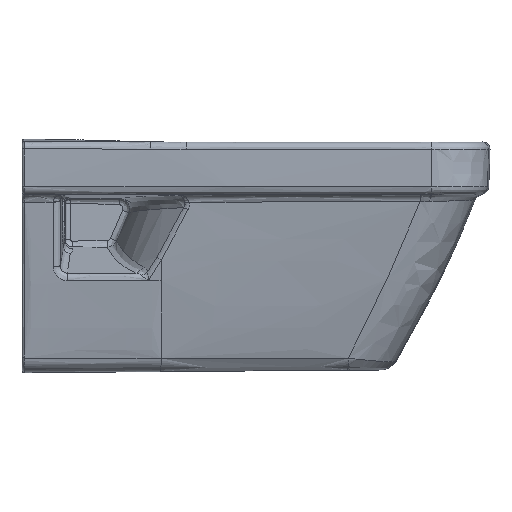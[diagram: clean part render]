
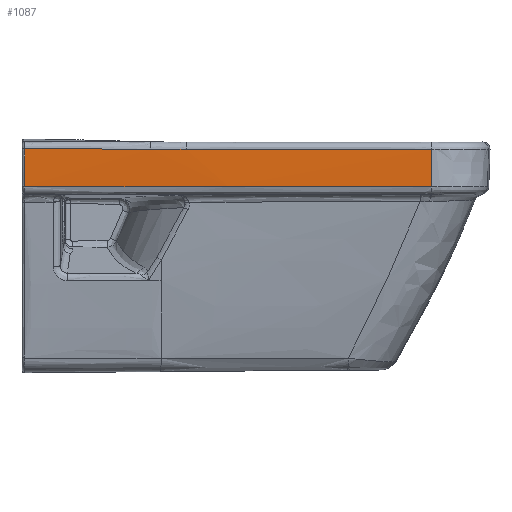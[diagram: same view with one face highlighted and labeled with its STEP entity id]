
A CAD part, front view. The second image highlights one B-rep face of the part: STEP entity #1087.
In plain terms, the highlighted free-form (B-spline) face has degree [3, 3] with [8, 7] control points.
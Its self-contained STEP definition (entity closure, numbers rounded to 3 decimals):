
#738=B_SPLINE_SURFACE_WITH_KNOTS('',3,3,((#49811,#49812,#49813,#49814,#49815,
#49816,#49817),(#49818,#49819,#49820,#49821,#49822,#49823,#49824),(#49825,
#49826,#49827,#49828,#49829,#49830,#49831),(#49832,#49833,#49834,#49835,
#49836,#49837,#49838),(#49839,#49840,#49841,#49842,#49843,#49844,#49845),
(#49846,#49847,#49848,#49849,#49850,#49851,#49852),(#49853,#49854,#49855,
#49856,#49857,#49858,#49859),(#49860,#49861,#49862,#49863,#49864,#49865,
#49866)),.UNSPECIFIED.,.F.,.F.,.F.,(4,2,2,4),(4,1,1,1,4),(0.,0.13,
0.843,1.),(0.,0.19,0.199,0.2,1.),
 .UNSPECIFIED.);
#1087=ADVANCED_FACE('',(#1491),#738,.T.);
#1491=FACE_OUTER_BOUND('',#1893,.T.);
#1893=EDGE_LOOP('',(#3611,#3612,#3613,#3614,#3615,#3616,#3617));
#3611=ORIENTED_EDGE('',*,*,#5258,.T.);
#3612=ORIENTED_EDGE('',*,*,#5272,.T.);
#3613=ORIENTED_EDGE('',*,*,#5273,.T.);
#3614=ORIENTED_EDGE('',*,*,#5222,.F.);
#3615=ORIENTED_EDGE('',*,*,#4941,.T.);
#3616=ORIENTED_EDGE('',*,*,#4938,.T.);
#3617=ORIENTED_EDGE('',*,*,#5259,.T.);
#4207=VERTEX_POINT('',#33628);
#4210=VERTEX_POINT('',#33666);
#4211=VERTEX_POINT('',#33688);
#4373=VERTEX_POINT('',#44977);
#4387=VERTEX_POINT('',#49016);
#4388=VERTEX_POINT('',#49021);
#4396=VERTEX_POINT('',#49806);
#4938=EDGE_CURVE('',#4207,#4210,#5642,.T.);
#4941=EDGE_CURVE('',#4211,#4207,#5644,.T.);
#5222=EDGE_CURVE('',#4211,#4373,#5846,.T.);
#5258=EDGE_CURVE('',#4388,#4387,#5878,.T.);
#5259=EDGE_CURVE('',#4210,#4388,#5879,.T.);
#5272=EDGE_CURVE('',#4387,#4396,#5892,.T.);
#5273=EDGE_CURVE('',#4396,#4373,#5893,.T.);
#5642=B_SPLINE_CURVE_WITH_KNOTS('',3,(#33667,#33668,#33669,#33670,#33671,
#33672,#33673,#33674),.UNSPECIFIED.,.F.,.F.,(4,2,2,4),(0.,0.311,
0.622,1.),.UNSPECIFIED.);
#5644=B_SPLINE_CURVE_WITH_KNOTS('',3,(#33741,#33742,#33743,#33744,#33745,
#33746,#33747,#33748),.UNSPECIFIED.,.F.,.F.,(4,2,2,4),(0.,0.25,0.5,1.),
 .UNSPECIFIED.);
#5846=B_SPLINE_CURVE_WITH_KNOTS('',3,(#44973,#44974,#44975,#44976),
 .UNSPECIFIED.,.F.,.F.,(4,4),(0.,1.),.UNSPECIFIED.);
#5878=B_SPLINE_CURVE_WITH_KNOTS('',3,(#49017,#49018,#49019,#49020),
 .UNSPECIFIED.,.F.,.F.,(4,4),(0.,1.),.UNSPECIFIED.);
#5879=B_SPLINE_CURVE_WITH_KNOTS('',3,(#49022,#49023,#49024,#49025,#49026,
#49027,#49028,#49029,#49030,#49031,#49032),.UNSPECIFIED.,.F.,.F.,(4,2,2,
3,4),(0.,0.4,0.799,0.934,1.),
 .UNSPECIFIED.);
#5892=B_SPLINE_CURVE_WITH_KNOTS('',3,(#49802,#49803,#49804,#49805),
 .UNSPECIFIED.,.F.,.F.,(4,4),(0.,1.),.UNSPECIFIED.);
#5893=B_SPLINE_CURVE_WITH_KNOTS('',3,(#49807,#49808,#49809,#49810),
 .UNSPECIFIED.,.F.,.F.,(4,4),(0.,1.),.UNSPECIFIED.);
#33628=CARTESIAN_POINT('',(185.79,-184.959,-8.19));
#33666=CARTESIAN_POINT('',(145.676,-184.875,-8.072));
#33667=CARTESIAN_POINT('',(185.79,-184.959,-8.19));
#33668=CARTESIAN_POINT('',(181.631,-184.956,-8.18));
#33669=CARTESIAN_POINT('',(177.473,-184.951,-8.168));
#33670=CARTESIAN_POINT('',(169.156,-184.938,-8.144));
#33671=CARTESIAN_POINT('',(164.997,-184.93,-8.132));
#33672=CARTESIAN_POINT('',(155.784,-184.907,-8.104));
#33673=CARTESIAN_POINT('',(150.73,-184.893,-8.09));
#33674=CARTESIAN_POINT('',(145.676,-184.875,-8.072));
#33688=CARTESIAN_POINT('',(463.726,-182.563,-8.195));
#33741=CARTESIAN_POINT('',(463.726,-182.563,-8.195));
#33742=CARTESIAN_POINT('',(440.567,-182.98,-8.251));
#33743=CARTESIAN_POINT('',(417.407,-183.343,-8.245));
#33744=CARTESIAN_POINT('',(371.086,-183.959,-8.285));
#33745=CARTESIAN_POINT('',(347.925,-184.213,-8.302));
#33746=CARTESIAN_POINT('',(278.44,-184.811,-8.325));
#33747=CARTESIAN_POINT('',(232.115,-184.993,-8.301));
#33748=CARTESIAN_POINT('',(185.79,-184.959,-8.19));
#44973=CARTESIAN_POINT('',(463.727,-182.6,0.));
#44974=CARTESIAN_POINT('',(463.727,-182.6,-20.015));
#44975=CARTESIAN_POINT('',(463.715,-181.933,-40.03));
#44976=CARTESIAN_POINT('',(463.691,-180.6,-60.));
#44977=CARTESIAN_POINT('',(463.701,-181.18,-50.561));
#49016=CARTESIAN_POINT('',(2.961,-183.705,-7.817));
#49017=CARTESIAN_POINT('',(3.948,-183.718,-7.817));
#49018=CARTESIAN_POINT('',(3.619,-183.713,-7.817));
#49019=CARTESIAN_POINT('',(3.29,-183.709,-7.817));
#49020=CARTESIAN_POINT('',(2.961,-183.705,-7.817));
#49021=CARTESIAN_POINT('',(3.948,-183.718,-7.817));
#49022=CARTESIAN_POINT('',(145.676,-184.875,-8.072));
#49023=CARTESIAN_POINT('',(125.46,-184.806,-8.));
#49024=CARTESIAN_POINT('',(105.244,-184.696,-7.945));
#49025=CARTESIAN_POINT('',(64.812,-184.393,-7.862));
#49026=CARTESIAN_POINT('',(44.596,-184.201,-7.836));
#49027=CARTESIAN_POINT('',(17.57,-183.889,-7.82));
#49028=CARTESIAN_POINT('',(10.759,-183.806,-7.818));
#49029=CARTESIAN_POINT('',(3.948,-183.718,-7.817));
#49030=CARTESIAN_POINT('',(0.615,-183.675,-7.816));
#49031=CARTESIAN_POINT('',(-2.718,-183.63,-7.816));
#49032=CARTESIAN_POINT('',(-6.051,-183.585,-7.816));
#49802=CARTESIAN_POINT('',(2.961,-183.705,-7.817));
#49803=CARTESIAN_POINT('',(2.961,-183.581,-22.074));
#49804=CARTESIAN_POINT('',(2.961,-183.119,-36.326));
#49805=CARTESIAN_POINT('',(2.961,-182.319,-50.562));
#49806=CARTESIAN_POINT('',(2.961,-182.319,-50.561));
#49807=CARTESIAN_POINT('',(2.961,-182.319,-50.562));
#49808=CARTESIAN_POINT('',(156.535,-184.309,-50.561));
#49809=CARTESIAN_POINT('',(310.14,-183.95,-50.561));
#49810=CARTESIAN_POINT('',(463.701,-181.18,-50.561));
#49811=CARTESIAN_POINT('',(-115.921,-181.762,0.));
#49812=CARTESIAN_POINT('',(-79.19,-182.494,0.));
#49813=CARTESIAN_POINT('',(-40.74,-183.155,0.));
#49814=CARTESIAN_POINT('',(-2.098,-183.672,0.));
#49815=CARTESIAN_POINT('',(154.378,-185.738,0.));
#49816=CARTESIAN_POINT('',(309.17,-185.387,0.));
#49817=CARTESIAN_POINT('',(463.727,-182.6,0.));
#49818=CARTESIAN_POINT('',(-115.921,-181.762,-2.606));
#49819=CARTESIAN_POINT('',(-79.19,-182.494,-2.606));
#49820=CARTESIAN_POINT('',(-40.74,-183.155,-2.606));
#49821=CARTESIAN_POINT('',(-2.098,-183.672,-2.606));
#49822=CARTESIAN_POINT('',(154.378,-185.738,-2.606));
#49823=CARTESIAN_POINT('',(309.17,-185.387,-2.606));
#49824=CARTESIAN_POINT('',(463.727,-182.6,-2.606));
#49825=CARTESIAN_POINT('',(-115.924,-181.751,-5.211));
#49826=CARTESIAN_POINT('',(-79.193,-182.483,-5.211));
#49827=CARTESIAN_POINT('',(-40.743,-183.144,-5.211));
#49828=CARTESIAN_POINT('',(-2.101,-183.661,-5.211));
#49829=CARTESIAN_POINT('',(154.376,-185.726,-5.211));
#49830=CARTESIAN_POINT('',(309.169,-185.376,-5.211));
#49831=CARTESIAN_POINT('',(463.727,-182.589,-5.211));
#49832=CARTESIAN_POINT('',(-115.966,-181.604,-22.074));
#49833=CARTESIAN_POINT('',(-79.231,-182.336,-22.074));
#49834=CARTESIAN_POINT('',(-40.779,-182.997,-22.074));
#49835=CARTESIAN_POINT('',(-2.134,-183.514,-22.074));
#49836=CARTESIAN_POINT('',(154.353,-185.579,-22.074));
#49837=CARTESIAN_POINT('',(309.156,-185.231,-22.073));
#49838=CARTESIAN_POINT('',(463.724,-182.442,-22.073));
#49839=CARTESIAN_POINT('',(-116.096,-181.164,-36.329));
#49840=CARTESIAN_POINT('',(-79.354,-181.889,-36.329));
#49841=CARTESIAN_POINT('',(-40.894,-182.541,-36.328));
#49842=CARTESIAN_POINT('',(-2.241,-183.05,-36.328));
#49843=CARTESIAN_POINT('',(154.28,-185.116,-36.327));
#49844=CARTESIAN_POINT('',(309.115,-184.77,-36.327));
#49845=CARTESIAN_POINT('',(463.716,-181.98,-36.326));
#49846=CARTESIAN_POINT('',(-116.371,-180.155,-53.709));
#49847=CARTESIAN_POINT('',(-79.612,-180.888,-53.709));
#49848=CARTESIAN_POINT('',(-41.135,-181.551,-53.709));
#49849=CARTESIAN_POINT('',(-2.465,-182.071,-53.709));
#49850=CARTESIAN_POINT('',(154.125,-184.137,-53.709));
#49851=CARTESIAN_POINT('',(309.029,-183.793,-53.708));
#49852=CARTESIAN_POINT('',(463.698,-181.004,-53.708));
#49853=CARTESIAN_POINT('',(-116.425,-179.966,-56.855));
#49854=CARTESIAN_POINT('',(-79.664,-180.698,-56.855));
#49855=CARTESIAN_POINT('',(-41.183,-181.359,-56.855));
#49856=CARTESIAN_POINT('',(-2.509,-181.877,-56.855));
#49857=CARTESIAN_POINT('',(154.094,-183.944,-56.855));
#49858=CARTESIAN_POINT('',(309.012,-183.6,-56.855));
#49859=CARTESIAN_POINT('',(463.695,-180.81,-56.855));
#49860=CARTESIAN_POINT('',(-116.484,-179.755,-60.));
#49861=CARTESIAN_POINT('',(-79.719,-180.487,-60.));
#49862=CARTESIAN_POINT('',(-41.235,-181.148,-60.));
#49863=CARTESIAN_POINT('',(-2.558,-181.666,-60.));
#49864=CARTESIAN_POINT('',(154.061,-183.733,-60.));
#49865=CARTESIAN_POINT('',(308.993,-183.39,-60.));
#49866=CARTESIAN_POINT('',(463.691,-180.6,-60.));
